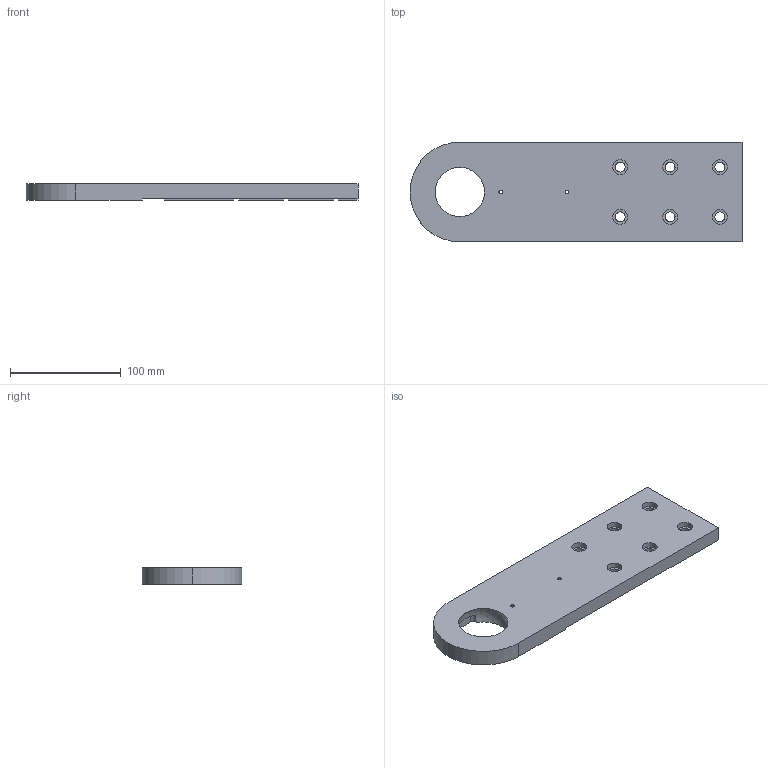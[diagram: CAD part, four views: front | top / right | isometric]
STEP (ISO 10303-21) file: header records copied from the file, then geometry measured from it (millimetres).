
FILE_DESCRIPTION (( 'STEP AP203' ), '1' );
FILE_NAME ('084.808.002.STEP', '2013-01-29T13:54:41', ( 'Alusic' ), ( 'Alusic' ), 'SwSTEP 2.0', 'SolidWorks 2011', '' );
FILE_SCHEMA (( 'CONFIG_CONTROL_DESIGN' ));
Length unit declared in the file: millimetre
Products named in the file (1): 084.808.002
Bounding box: 300 x 90 x 15 mm (x, y, z)
Volume: 335881.1 mm3; surface area: 65301.8 mm2
Topology: 1 solids, 1 shells, 83 faces, 247 edges, 164 vertices
Faces by surface type: plane 47, cylinder 34, sphere 2
Entity records: 2920 total; most frequent: DIRECTION 513, CARTESIAN_POINT 501, ORIENTED_EDGE 486, EDGE_CURVE 243, AXIS2_PLACEMENT_3D 190, VERTEX_POINT 162, LINE 133, VECTOR 133
